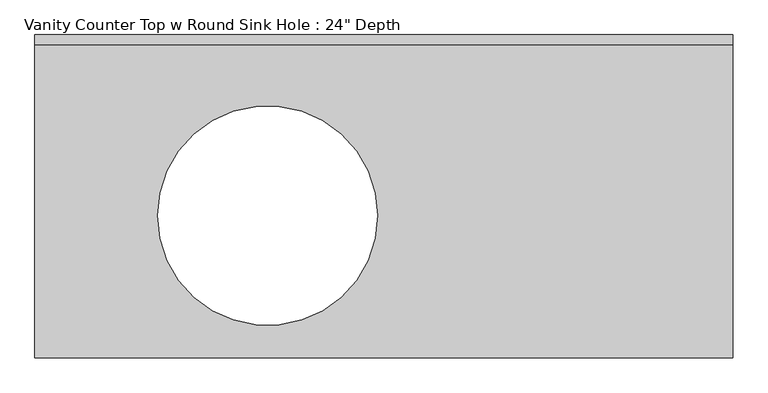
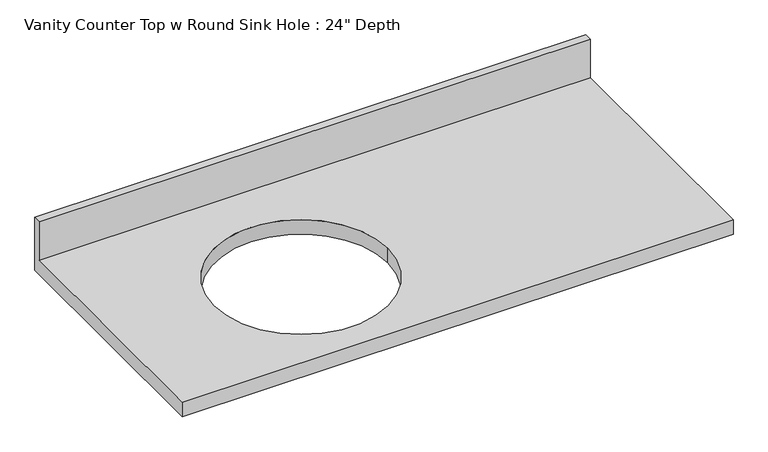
"""IFC4 building model written with IfcOpenShell, lengths in millimetres: furniture geometry."""

from ifc_helpers import new_model, si_unit, frame, origin, place, context, project, spatial, polyline, circle_curve, source, transform, mapped, element, save
from ifc_brep_helpers import plane_surface, revolved_surface, advanced_brep


def furniture_0abe6de7(model_context):
    return source(origin(), model_context, "Body", "AdvancedBrep", [
        advanced_brep(
        [(-1327.4622951, -635.0, 787.4), (44.1377049, -635.0, 787.4), (44.1377049, -19.05, 787.4), (-1327.4622951, -19.05, 787.4), (-654.3622951, -355.6, 787.4), (-1086.1622951, -355.6, 787.4), (44.1377049, 0.0, 749.3), (44.1377049, -635.0, 749.3), (-1327.4622951, -635.0, 749.3), (-1327.4622951, 0.0, 749.3), (-1086.1622951, -355.6, 749.3), (-654.3622951, -355.6, 749.3), (-1327.4622951, 0.0, 889.0), (44.1377049, 0.0, 889.0), (-1327.4622951, -19.05, 889.0), (44.1377049, -19.05, 889.0)],
        [
            (0, 1),
            (1, 2),
            (2, 3),
            (3, 0),
            (4, 5, circle_curve(frame((-870.2622951, -355.6, 787.4), z_axis=(0.0, 0.0, -1.0), x_axis=(1.0, 0.0, 0.0)), 215.9)),
            (5, 4, circle_curve(frame((-870.2622951, -355.6, 787.4), z_axis=(0.0, 0.0, -1.0), x_axis=(1.0, 0.0, 0.0)), 215.9)),
            (6, 7),
            (7, 8),
            (8, 9),
            (9, 6),
            (10, 11, circle_curve(frame((-870.2622951, -355.6, 749.3), z_axis=(0.0, 0.0, 1.0), x_axis=(1.0, 0.0, 0.0)), 215.9)),
            (11, 10, circle_curve(frame((-870.2622951, -355.6, 749.3), z_axis=(0.0, 0.0, 1.0), x_axis=(1.0, 0.0, 0.0)), 215.9)),
            (9, 12),
            (12, 13),
            (13, 6),
            (8, 0),
            (3, 14),
            (14, 12),
            (7, 1),
            (13, 15),
            (15, 2),
            (4, 11),
            (10, 5),
            (14, 15),
        ],
        [
            plane_surface(frame((-1327.4622951, 0.0, 787.4), z_axis=(0.0, 0.0, 1.0), x_axis=(-1.0, 0.0, 0.0))),
            plane_surface(frame((-1327.4622951, 0.0, 749.3), z_axis=(0.0, 0.0, -1.0), x_axis=(1.0, 0.0, 0.0))),
            plane_surface(frame((44.1377049, 0.0, 787.4), z_axis=(0.0, 1.0, 0.0), x_axis=(0.0, 0.0, -1.0))),
            plane_surface(frame((-1327.4622951, 0.0, 787.4), z_axis=(-1.0, 0.0, 0.0), x_axis=(0.0, 0.0, -1.0))),
            plane_surface(frame((-1327.4622951, -635.0, 787.4), z_axis=(0.0, -1.0, 0.0), x_axis=(0.0, 0.0, -1.0))),
            plane_surface(frame((44.1377049, -635.0, 787.4), z_axis=(1.0, 0.0, 0.0), x_axis=(0.0, 0.0, -1.0))),
            revolved_surface(polyline([(-654.3622951, -355.6, 787.4), (-654.3622951, -355.6, 749.3)]), (-870.2622951, -355.6, 749.3), (0.0, 0.0, 1.0)),
            plane_surface(frame((-1327.4622951, 0.0, 889.0), z_axis=(0.0, 0.0, 1.0), x_axis=(0.0, -1.0, 0.0))),
            plane_surface(frame((-1327.4622951, -19.05, 889.0), z_axis=(0.0, -1.0, 0.0), x_axis=(0.0, 0.0, -1.0))),
        ],
        [
            (0, [[1, 2, 3, 4], [5, 6]]),
            (1, [[7, 8, 9, 10], [11, 12]]),
            (2, [[-10, 13, 14, 15]]),
            (3, [[-9, 16, -4, 17, 18, -13]]),
            (4, [[-1, -16, -8, 19]]),
            (5, [[-7, -15, 20, 21, -2, -19]]),
            (6, [[22, -11, 23, -5]]),
            (6, [[-22, -6, -23, -12]]),
            (7, [[-18, 24, -20, -14]]),
            (8, [[-24, -17, -3, -21]]),
        ],
    ),
    ])


if __name__ == "__main__":
    model = new_model("IFC4")
    model_context = context("Model", 3, world=origin())
    ifc_project = project(units=[si_unit("LENGTHUNIT", "METRE", prefix="MILLI")], contexts=[model_context])
    site = spatial("IfcSite", under=ifc_project)
    building = spatial("IfcBuilding", under=site)
    placement = place(None, origin())
    furniture_shape = furniture_0abe6de7(model_context)
    element("IfcFurniture", 1, ObjectType="Vanity Counter Top w Round Sink Hole : 24\" Depth", at=placement, inside=building, context=model_context, shape_type="MappedRepresentation", body=[
        mapped(furniture_shape, transform((0.0, 0.0, 0.0), x_axis=(1.0, 0.0, 0.0), y_axis=(0.0, 1.0, 0.0), z_axis=(0.0, 0.0, 1.0))),
    ])
    save(model, "model.ifc")
